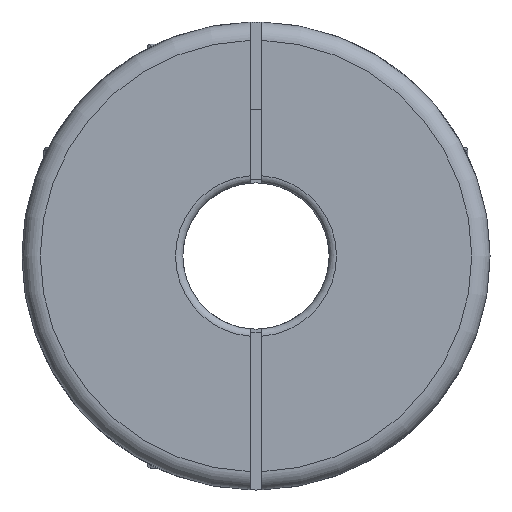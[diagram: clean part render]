
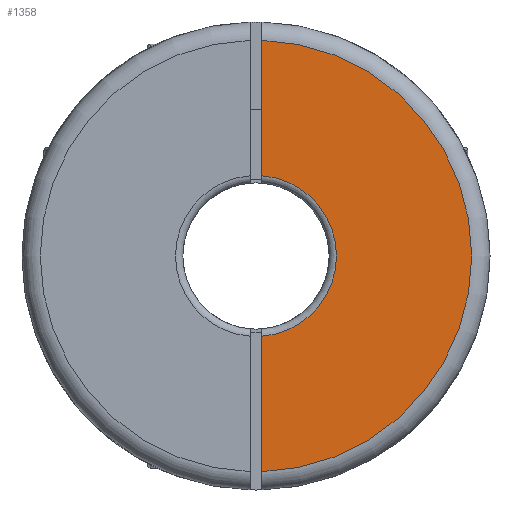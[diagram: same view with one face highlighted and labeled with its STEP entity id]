
A CAD part, left-side view. The second image highlights one B-rep face of the part: STEP entity #1358.
In plain terms, the highlighted planar face has unit normal (-1, 0, 0).
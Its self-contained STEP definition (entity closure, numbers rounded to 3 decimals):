
#183 = DIRECTION ( 'NONE',  ( 0., 0., -1. ) ) ;
#242 = CIRCLE ( 'NONE', #5376, 5.5 ) ;
#337 = AXIS2_PLACEMENT_3D ( 'NONE', #5595, #3060, #183 ) ;
#351 = VECTOR ( 'NONE', #2262, 1000. ) ;
#1358 = ADVANCED_FACE ( 'NONE', ( #3178 ), #2564, .F. ) ;
#1500 = VERTEX_POINT ( 'NONE', #2609 ) ;
#1606 = LINE ( 'NONE', #4524, #351 ) ;
#1696 = CARTESIAN_POINT ( 'NONE',  ( -20.5, 0., 0. ) ) ;
#1758 = DIRECTION ( 'NONE',  ( 0., 0., -1. ) ) ;
#2165 = VERTEX_POINT ( 'NONE', #2613 ) ;
#2190 = DIRECTION ( 'NONE',  ( 0., 0., -1. ) ) ;
#2236 = CARTESIAN_POINT ( 'NONE',  ( -20.5, 0., 0. ) ) ;
#2262 = DIRECTION ( 'NONE',  ( 0., 0., -1. ) ) ;
#2564 = PLANE ( 'NONE',  #337 ) ;
#2575 = EDGE_CURVE ( 'NONE', #4652, #5853, #4026, .T. ) ;
#2609 = CARTESIAN_POINT ( 'NONE',  ( -20.5, -0.4, -5.485 ) ) ;
#2612 = EDGE_CURVE ( 'NONE', #2165, #1500, #242, .T. ) ;
#2613 = CARTESIAN_POINT ( 'NONE',  ( -20.5, -0.4, 5.485 ) ) ;
#2621 = EDGE_CURVE ( 'NONE', #5853, #2165, #2780, .T. ) ;
#2623 = EDGE_CURVE ( 'NONE', #1500, #4652, #1606, .T. ) ;
#2739 = DIRECTION ( 'NONE',  ( 0., 0., -1. ) ) ;
#2780 = LINE ( 'NONE', #3215, #4117 ) ;
#3060 = DIRECTION ( 'NONE',  ( 1., 0., 0. ) ) ;
#3178 = FACE_OUTER_BOUND ( 'NONE', #4199, .T. ) ;
#3215 = CARTESIAN_POINT ( 'NONE',  ( -20.5, -0.4, 15.995 ) ) ;
#3257 = ORIENTED_EDGE ( 'NONE', *, *, #2623, .T. ) ;
#3322 = ORIENTED_EDGE ( 'NONE', *, *, #2575, .T. ) ;
#3349 = CARTESIAN_POINT ( 'NONE',  ( -20.5, -0.4, -14.745 ) ) ;
#4026 = CIRCLE ( 'NONE', #5339, 14.75 ) ;
#4117 = VECTOR ( 'NONE', #1758, 1000. ) ;
#4199 = EDGE_LOOP ( 'NONE', ( #4277, #4919, #3257, #3322 ) ) ;
#4277 = ORIENTED_EDGE ( 'NONE', *, *, #2621, .T. ) ;
#4524 = CARTESIAN_POINT ( 'NONE',  ( -20.5, -0.4, 15.995 ) ) ;
#4652 = VERTEX_POINT ( 'NONE', #3349 ) ;
#4869 = DIRECTION ( 'NONE',  ( -1., 0., 0. ) ) ;
#4919 = ORIENTED_EDGE ( 'NONE', *, *, #2612, .T. ) ;
#4920 = CARTESIAN_POINT ( 'NONE',  ( -20.5, -0.4, 14.745 ) ) ;
#5327 = DIRECTION ( 'NONE',  ( 1., 0., 0. ) ) ;
#5339 = AXIS2_PLACEMENT_3D ( 'NONE', #1696, #4869, #2190 ) ;
#5376 = AXIS2_PLACEMENT_3D ( 'NONE', #2236, #5327, #2739 ) ;
#5595 = CARTESIAN_POINT ( 'NONE',  ( -20.5, 0., 0. ) ) ;
#5853 = VERTEX_POINT ( 'NONE', #4920 ) ;
